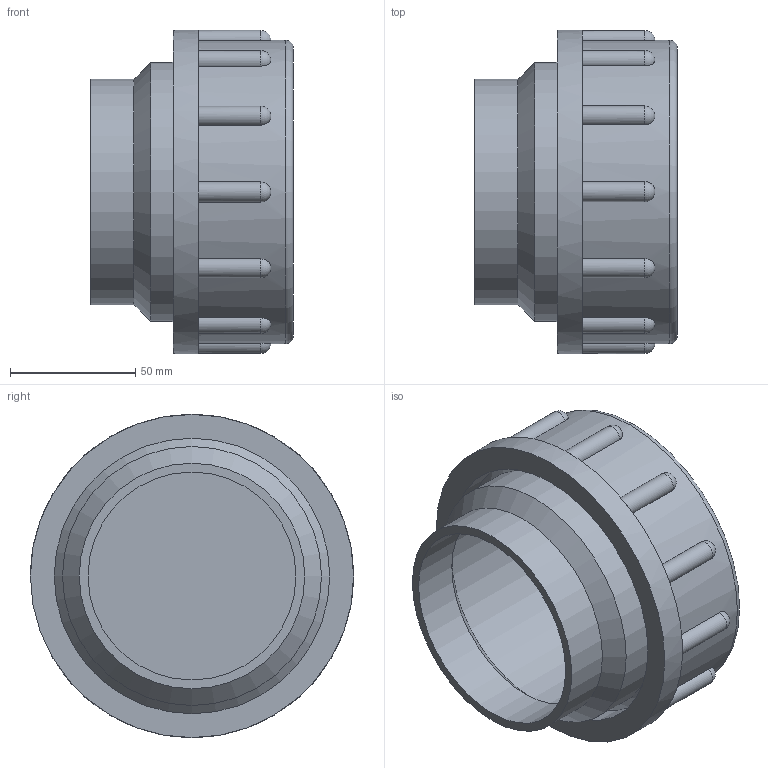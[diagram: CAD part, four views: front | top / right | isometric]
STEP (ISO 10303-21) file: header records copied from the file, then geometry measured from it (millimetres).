
FILE_DESCRIPTION(/* description */ (''),/* implementation_level */ '2;1');
FILE_NAME(/* name */ 'Z:\Geberit\Export\NewStep\Gewindest. m. Verschlk._Iassembly\stp\366750.stp',/* time_stamp */ '2014-04-03T17:41:18+02:00',/* author */ ('Marco'),/* organization */ (''),/* preprocessor_version */ 'ST-DEVELOPER v15.2',/* originating_system */ 'Autodesk Inventor 2014',/* authorisation */ '');
FILE_SCHEMA (('AUTOMOTIVE_DESIGN { 1 0 10303 214 3 1 1 }'));
Length unit declared in the file: millimetre
Products named in the file (3): 366784; 366785; 366750
Bounding box: 81 x 129 x 129 mm (x, y, z)
Volume: 330823.5 mm3; surface area: 109853.8 mm2
Topology: 2 solids, 2 shells, 55 faces, 152 edges, 89 vertices
Faces by surface type: cylinder 21, plane 16, sphere 12, cone 5, torus 1
Full cylindrical faces by diameter (mm): 83 x1, 90 x1, 91.2 x1, 103.4 x2, 110 x2, 121 x1, 129 x1
Entity records: 1947 total; most frequent: CARTESIAN_POINT 538, DIRECTION 298, ORIENTED_EDGE 250, AXIS2_PLACEMENT_3D 137, EDGE_CURVE 125, VERTEX_POINT 89, CIRCLE 77, EDGE_LOOP 72
